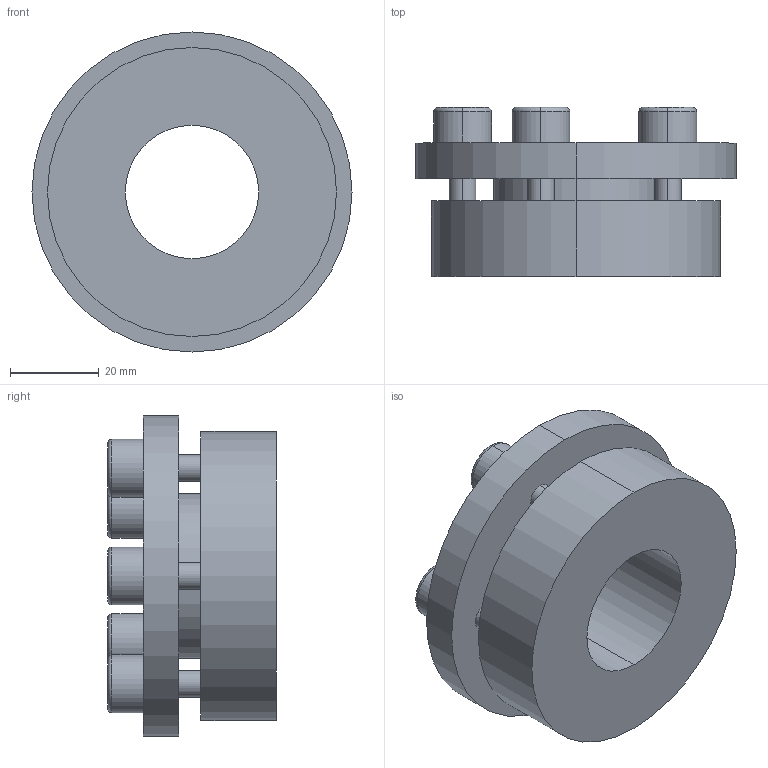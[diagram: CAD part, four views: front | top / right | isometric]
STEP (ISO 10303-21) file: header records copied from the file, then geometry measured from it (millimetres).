
FILE_DESCRIPTION (( 'STEP AP203' ), '1' );
FILE_NAME ('PL-H4 30-65.STEP', '2021-10-23T01:19:44', ( '' ), ( '' ), 'SwSTEP 2.0', 'SolidWorks 2018', '' );
FILE_SCHEMA (( 'CONFIG_CONTROL_DESIGN' ));
Length unit declared in the file: millimetre
Products named in the file (1): PL-H4 30-65
Bounding box: 72 x 38 x 72 mm (x, y, z)
Volume: 78503.9 mm3; surface area: 22053.1 mm2
Topology: 1 solids, 1 shells, 82 faces, 194 edges, 126 vertices
Faces by surface type: plane 44, cylinder 28, torus 10
Entity records: 2475 total; most frequent: DIRECTION 436, CARTESIAN_POINT 403, ORIENTED_EDGE 388, EDGE_CURVE 194, AXIS2_PLACEMENT_3D 159, VERTEX_POINT 126, VECTOR 118, LINE 118
